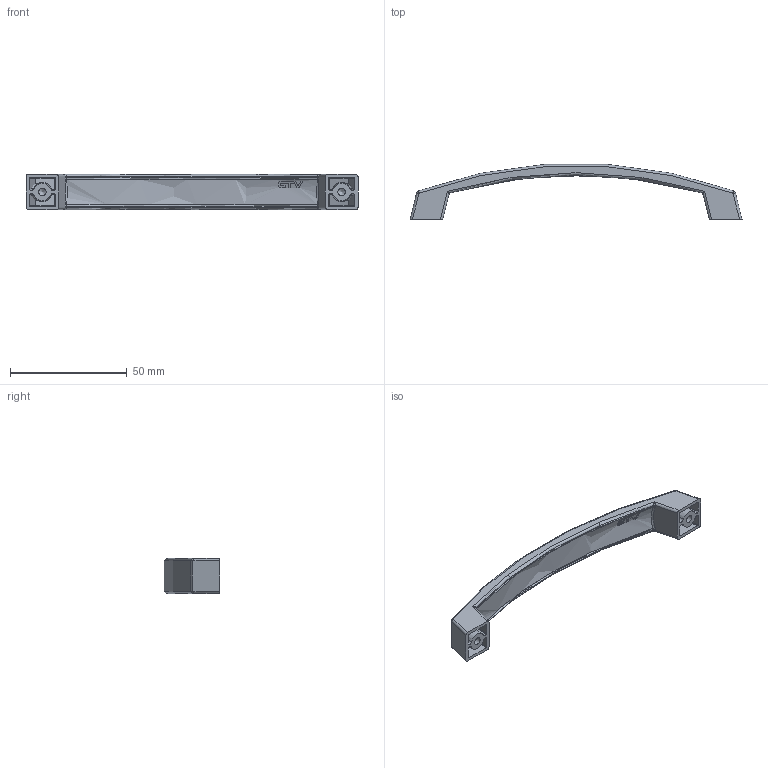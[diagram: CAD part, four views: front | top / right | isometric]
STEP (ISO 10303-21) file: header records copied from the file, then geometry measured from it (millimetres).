
FILE_DESCRIPTION(/* description */ (''),/* implementation_level */ '2;1');
FILE_NAME(/* name */ 'D:\$Workingspace\Designs\Meblowka\uchwyty\UZ-G0-\UZ-G0-128.stp',/* time_stamp */ '2019-09-19T12:04:53+02:00',/* author */ ('tomaszw'),/* organization */ (''),/* preprocessor_version */ 'ST-DEVELOPER v17.2',/* originating_system */ 'Autodesk Inventor 2019',/* authorisation */ '');
FILE_SCHEMA (('AUTOMOTIVE_DESIGN { 1 0 10303 214 3 1 1 }'));
Length unit declared in the file: millimetre
Products named in the file (1): UZ-G0-...
Bounding box: 142 x 23.52 x 15 mm (x, y, z)
Volume: 11590.3 mm3; surface area: 8138.5 mm2
Topology: 1 solids, 1 shells, 171 faces, 416 edges, 250 vertices
Faces by surface type: bspline 54, plane 48, cylinder 39, cone 14, sphere 8, torus 8
Full cylindrical faces by diameter (mm): 3.242 x2
Entity records: 6641 total; most frequent: CARTESIAN_POINT 2991, ORIENTED_EDGE 820, DIRECTION 634, EDGE_CURVE 410, AXIS2_PLACEMENT_3D 254, VERTEX_POINT 250, EDGE_LOOP 180, FACE_OUTER_BOUND 171
